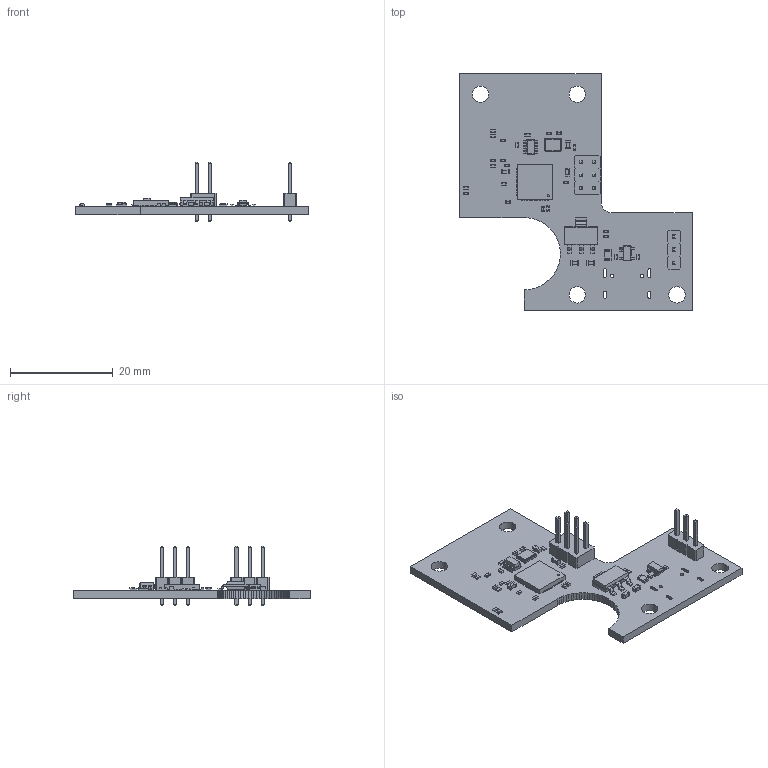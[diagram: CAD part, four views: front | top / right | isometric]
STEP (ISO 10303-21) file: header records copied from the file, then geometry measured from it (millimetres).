
FILE_DESCRIPTION(('KiCad electronic assembly'),'2;1');
FILE_NAME('ThrottleControllerMain.step','2023-11-10T10:47:35',('Pcbnew') ,('Kicad'),'Open CASCADE STEP processor 7.6','KiCad to STEP converter' ,'Unknown');
FILE_SCHEMA(('AUTOMOTIVE_DESIGN { 1 0 10303 214 1 1 1 1 }'));
Length unit declared in the file: millimetre
Products named in the file (26): ThrottleControllerMain 1; C_0402_1005Metric; SOLID; C_0603_1608Metric; R_0402_1005Metric; LED_0402_1005Metric; SOT-223; PinHeader_1x03_P2.54mm_Vertical; SOT-143; Crystal_SMD_3225-4Pin_3.2x2.5mm; Fuse_0805_2012Metric; QFN-44-1EP_7x7mm_P0.5mm_EP5.2x5.2mm; SOT-23-6; PinHeader_2x03_P2.54mm_Vertical; PCB
Assembly tree (49 placements, depth 3):
  ThrottleControllerMain 1
    C_0402_1005Metric  x9
      SOLID
    C_0603_1608Metric  x5
      SOLID
    R_0402_1005Metric  x13
      SOLID
    LED_0402_1005Metric
      SOLID
    SOT-223
      SOLID
    PinHeader_1x03_P2.54mm_Vertical
      SOLID
    SOT-143
      SOLID
    Crystal_SMD_3225-4Pin_3.2x2.5mm
      SOLID
    Fuse_0805_2012Metric
      SOLID
    QFN-44-1EP_7x7mm_P0.5mm_EP5.2x5.2mm
      SOLID
    SOT-23-6
      SOLID
    PinHeader_2x03_P2.54mm_Vertical
      SOLID
    PCB
Bounding box: 45.28 x 46 x 11.54 mm (x, y, z)
Volume: 2279.1 mm3; surface area: 3780.3 mm2
Topology: 37 solids, 37 shells, 1772 faces, 4689 edges, 3042 vertices
Faces by surface type: plane 1326, cylinder 372, bspline 74
Full cylindrical faces by diameter (mm): 0.4 x1, 0.65 x2, 1 x9, 3.2 x4
Entity records: 81169 total; most frequent: CARTESIAN_POINT 13465, DIRECTION 11128, LINE 8275, VECTOR 8275, ORIENTED_EDGE 6018, PCURVE 6018, DEFINITIONAL_REPRESENTATION 6018, EDGE_CURVE 3009
